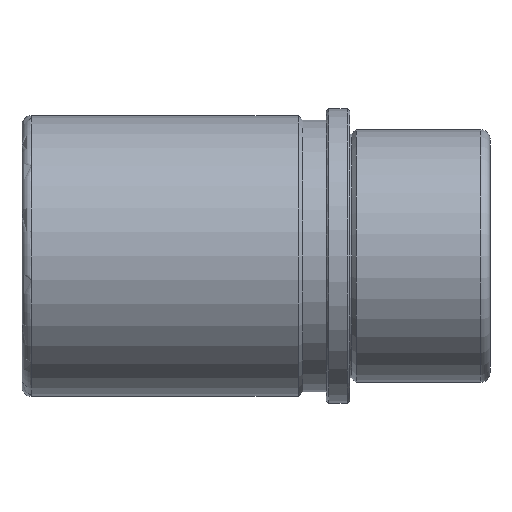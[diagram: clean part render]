
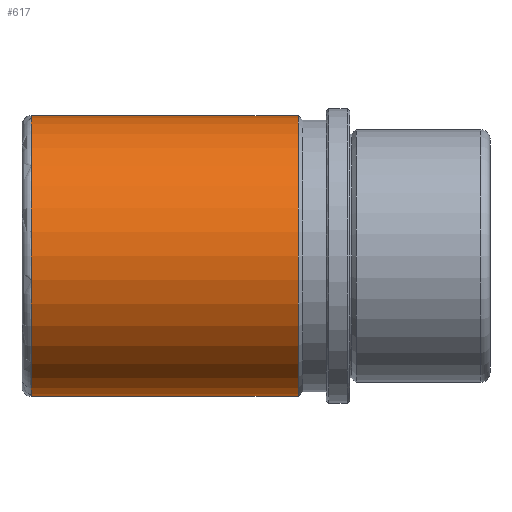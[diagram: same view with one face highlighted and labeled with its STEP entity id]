
A CAD part, front view. The second image highlights one B-rep face of the part: STEP entity #617.
In plain terms, the highlighted cylindrical face has radius 30 mm (diameter 60 mm), a partial arc.
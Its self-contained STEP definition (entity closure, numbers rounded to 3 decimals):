
#402=CARTESIAN_POINT('Line Origine',(30.,0.,30.)) ;
#406=CARTESIAN_POINT('Vertex',(-11.,0.,30.)) ;
#408=CARTESIAN_POINT('Vertex',(-68.,0.,30.)) ;
#422=CARTESIAN_POINT('Vertex',(-11.,0.,-30.)) ;
#425=CARTESIAN_POINT('Line Origine',(30.,0.,-30.)) ;
#429=CARTESIAN_POINT('Vertex',(-68.,0.,-30.)) ;
#580=CARTESIAN_POINT('Axis2P3D Location',(30.,0.,0.)) ;
#585=CARTESIAN_POINT('Axis2P3D Location',(-11.,0.,0.)) ;
#589=CARTESIAN_POINT('Vertex',(-11.,-30.,0.)) ;
#592=CARTESIAN_POINT('Axis2P3D Location',(-11.,0.,0.)) ;
#597=CARTESIAN_POINT('Axis2P3D Location',(-68.,0.,0.)) ;
#601=CARTESIAN_POINT('Vertex',(-68.,-30.,0.)) ;
#604=CARTESIAN_POINT('Axis2P3D Location',(-68.,0.,0.)) ;
#403=DIRECTION('Vector Direction',(-1.,0.,0.)) ;
#426=DIRECTION('Vector Direction',(-1.,0.,0.)) ;
#581=DIRECTION('Axis2P3D Direction',(-1.,-0.,-0.)) ;
#582=DIRECTION('Axis2P3D XDirection',(0.,0.,-1.)) ;
#586=DIRECTION('Axis2P3D Direction',(-1.,-0.,-0.)) ;
#593=DIRECTION('Axis2P3D Direction',(-1.,-0.,-0.)) ;
#598=DIRECTION('Axis2P3D Direction',(-1.,-0.,-0.)) ;
#605=DIRECTION('Axis2P3D Direction',(-1.,-0.,-0.)) ;
#583=AXIS2_PLACEMENT_3D('Cylinder Axis2P3D',#580,#581,#582) ;
#587=AXIS2_PLACEMENT_3D('Circle Axis2P3D',#585,#586,$) ;
#594=AXIS2_PLACEMENT_3D('Circle Axis2P3D',#592,#593,$) ;
#599=AXIS2_PLACEMENT_3D('Circle Axis2P3D',#597,#598,$) ;
#606=AXIS2_PLACEMENT_3D('Circle Axis2P3D',#604,#605,$) ;
#610=ORIENTED_EDGE('',*,*,#431,.T.) ;
#611=ORIENTED_EDGE('',*,*,#591,.F.) ;
#612=ORIENTED_EDGE('',*,*,#596,.F.) ;
#613=ORIENTED_EDGE('',*,*,#410,.T.) ;
#614=ORIENTED_EDGE('',*,*,#603,.T.) ;
#615=ORIENTED_EDGE('',*,*,#608,.T.) ;
#404=VECTOR('Line Direction',#403,1.) ;
#427=VECTOR('Line Direction',#426,1.) ;
#617=ADVANCED_FACE('FAMO-SF1-E42 x 100',(#616),#584,.T.) ;
#588=CIRCLE('generated circle',#587,30.) ;
#595=CIRCLE('generated circle',#594,30.) ;
#600=CIRCLE('generated circle',#599,30.) ;
#607=CIRCLE('generated circle',#606,30.) ;
#584=CYLINDRICAL_SURFACE('generated cylinder',#583,30.) ;
#410=EDGE_CURVE('',#407,#409,#405,.T.) ;
#431=EDGE_CURVE('',#430,#423,#428,.F.) ;
#591=EDGE_CURVE('',#590,#423,#588,.F.) ;
#596=EDGE_CURVE('',#407,#590,#595,.F.) ;
#603=EDGE_CURVE('',#409,#602,#600,.F.) ;
#608=EDGE_CURVE('',#602,#430,#607,.F.) ;
#609=EDGE_LOOP('',(#610,#611,#612,#613,#614,#615)) ;
#616=FACE_OUTER_BOUND('',#609,.T.) ;
#405=LINE('Line',#402,#404) ;
#428=LINE('Line',#425,#427) ;
#407=VERTEX_POINT('',#406) ;
#409=VERTEX_POINT('',#408) ;
#423=VERTEX_POINT('',#422) ;
#430=VERTEX_POINT('',#429) ;
#590=VERTEX_POINT('',#589) ;
#602=VERTEX_POINT('',#601) ;
